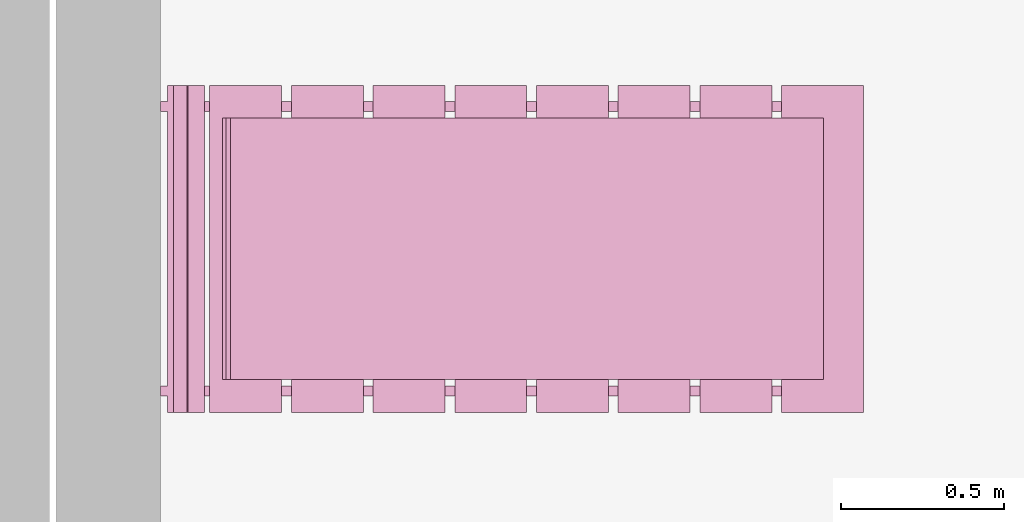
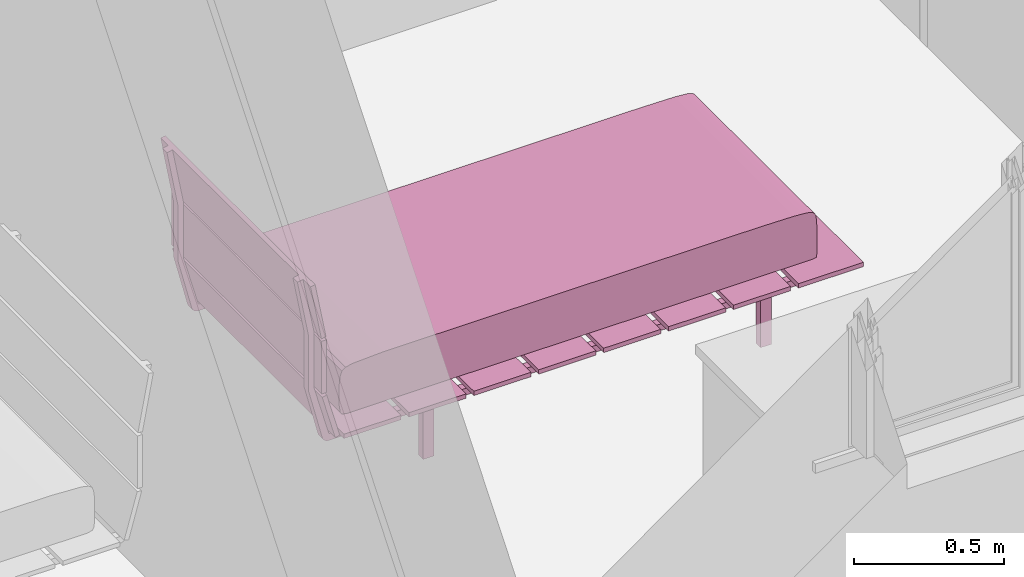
# One storey, part 57 of 61: 1 furnishing.
"""IFC2X3 building model written with IfcOpenShell, lengths in metres."""

from ifc_helpers import new_model, entity, si_unit, converted_unit, derived_unit, direction, frame, frame_2d, origin, origin_2d_with_axis, place, context, subcontext, project, spatial, polyline, circle_curve, parameter, trimmed, segment, composite_curve, rectangle, outline, extrude, source, transform, mapped, material, material_list, type_object, type_shapes, element, save


model = new_model("IFC2X3")

# Units and contexts
model_context = context("Model", 3, precision=1e-05, world=origin(), true_north=direction((6.12303176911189e-17, 1.0)))
body_context = subcontext(model_context, "Body", "Model", "MODEL_VIEW")
ifc_project = project(units=[si_unit("LENGTHUNIT", "METRE"), si_unit("AREAUNIT", "SQUARE_METRE"), si_unit("VOLUMEUNIT", "CUBIC_METRE"), converted_unit("PLANEANGLEUNIT", "DEGREE", entity("IfcRatioMeasure", 0.0174532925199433), si_unit("PLANEANGLEUNIT", "RADIAN"), dimensions=[0, 0, 0, 0, 0, 0, 0]), si_unit("MASSUNIT", "GRAM", prefix="KILO"), derived_unit("MASSDENSITYUNIT", [(si_unit("MASSUNIT", "GRAM", prefix="KILO"), 1), (si_unit("LENGTHUNIT", "METRE"), -3)]), si_unit("TIMEUNIT", "SECOND"), si_unit("FREQUENCYUNIT", "HERTZ"), si_unit("THERMODYNAMICTEMPERATUREUNIT", "DEGREE_CELSIUS"), derived_unit("THERMALTRANSMITTANCEUNIT", [(si_unit("MASSUNIT", "GRAM", prefix="KILO"), 1), (si_unit("THERMODYNAMICTEMPERATUREUNIT", "KELVIN"), -1), (si_unit("TIMEUNIT", "SECOND"), -3)]), derived_unit("VOLUMETRICFLOWRATEUNIT", [(si_unit("LENGTHUNIT", "METRE"), 3), (si_unit("TIMEUNIT", "SECOND"), -1)]), si_unit("ELECTRICCURRENTUNIT", "AMPERE"), si_unit("ELECTRICVOLTAGEUNIT", "VOLT"), si_unit("POWERUNIT", "WATT"), si_unit("FORCEUNIT", "NEWTON", prefix="KILO"), si_unit("ILLUMINANCEUNIT", "LUX"), si_unit("LUMINOUSFLUXUNIT", "LUMEN"), si_unit("LUMINOUSINTENSITYUNIT", "CANDELA"), derived_unit("USERDEFINED", [(si_unit("MASSUNIT", "GRAM", prefix="KILO"), -1), (si_unit("LENGTHUNIT", "METRE"), -2), (si_unit("TIMEUNIT", "SECOND"), 3), (si_unit("LUMINOUSFLUXUNIT", "LUMEN"), 1)]), derived_unit("LINEARVELOCITYUNIT", [(si_unit("LENGTHUNIT", "METRE"), 1), (si_unit("TIMEUNIT", "SECOND"), -1)]), si_unit("PRESSUREUNIT", "PASCAL"), derived_unit("USERDEFINED", [(si_unit("LENGTHUNIT", "METRE"), -2), (si_unit("MASSUNIT", "GRAM", prefix="KILO"), 1), (si_unit("TIMEUNIT", "SECOND"), -2)])], contexts=[model_context])

# Site, building, storey
site_placement = place(None, origin())
site = spatial("IfcSite", under=ifc_project, at=site_placement, Name="Surface", CompositionType="ELEMENT")
building_placement = place(site_placement, origin())
building = spatial("IfcBuilding", under=site, at=building_placement, CompositionType="ELEMENT")
storey_placement = place(building_placement, frame((0.0, 0.0, 2.82)))
storey = spatial("IfcBuildingStorey", under=building, at=storey_placement, Name="ETAGE", CompositionType="ELEMENT", Elevation=2.82)

# Furnishing
ifc_material_1 = material(Name="Textile - Bleu pâle")
ifc_material_2 = material(Name="Bois - Teck")
ifc_material_3 = material(Name="Plastique - Noir")
ifc_material_list_1 = material_list([ifc_material_1, ifc_material_2, ifc_material_3])
ifc_material_list_2 = material_list([ifc_material_1, ifc_material_2, ifc_material_3])
furniture_type = type_object("IfcFurnitureType", Name="1000 mm x 2000 mm 3", material=ifc_material_list_2)
shared_shape = source(origin(), body_context, "Body", "SweptSolid", [
    extrude(outline(composite_curve([segment(polyline([(0.753947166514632, -0.0964613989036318), (0.883258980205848, -0.0964613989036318)]), True, "CONTINUOUS"), segment(trimmed(circle_curve(frame_2d((0.82804087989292, 1.1581587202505), x_axis=(0.999878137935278, -0.0156111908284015)), 1.25583465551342), [parameter(273.414556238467)], [parameter(275.726345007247)], True, "PARAMETER"), True, "CONTINUOUS"), segment(trimmed(circle_curve(frame_2d((0.929150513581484, -0.0379486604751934), x_axis=(0.999878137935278, -0.0156111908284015)), 0.0554613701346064), [parameter(275.726345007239)], [parameter(297.64810869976)], True, "PARAMETER"), True, "CONTINUOUS"), segment(trimmed(circle_curve(frame_2d((0.943544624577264, -0.0665015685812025), x_axis=(0.999878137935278, -0.0156111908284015)), 0.0234854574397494), [parameter(297.648108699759)], [parameter(348.570161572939)], True, "PARAMETER"), True, "CONTINUOUS"), segment(trimmed(circle_curve(frame_2d((0.767446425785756, -0.0280276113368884), x_axis=(0.999878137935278, -0.0156111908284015)), 0.203737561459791), [parameter(348.570161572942)], [parameter(3.56222124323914e-13)], True, "PARAMETER"), True, "CONTINUOUS"), segment(polyline([(0.971159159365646, -0.0312081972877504), (0.97301851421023, 0.0878812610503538)]), True, "CONTINUOUS"), segment(polyline([(0.97301851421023, 0.0878812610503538), (0.971187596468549, 0.10002359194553)]), True, "CONTINUOUS"), segment(polyline([(0.971187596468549, 0.10002359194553), (0.955059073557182, 0.102294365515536)]), True, "CONTINUOUS"), segment(polyline([(0.955059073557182, 0.102294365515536), (-0.834665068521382, 0.130237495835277)]), True, "CONTINUOUS"), segment(polyline([(-0.834665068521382, 0.130237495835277), (-0.854928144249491, 0.12651595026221)]), True, "CONTINUOUS"), segment(polyline([(-0.854928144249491, 0.12651595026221), (-0.861114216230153, 0.118536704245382)]), True, "CONTINUOUS"), segment(polyline([(-0.861114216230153, 0.118536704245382), (-0.865626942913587, 0.0883228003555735)]), True, "CONTINUOUS"), segment(polyline([(-0.865626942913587, 0.0883228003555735), (-0.866982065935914, 0.00152878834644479)]), True, "CONTINUOUS"), segment(polyline([(-0.866982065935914, 0.00152878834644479), (-0.863446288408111, -0.0308297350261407)]), True, "CONTINUOUS"), segment(polyline([(-0.863446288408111, -0.0308297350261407), (-0.857669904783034, -0.0490905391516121)]), True, "CONTINUOUS"), segment(polyline([(-0.857669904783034, -0.0490905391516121), (-0.843687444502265, -0.0594036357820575)]), True, "CONTINUOUS"), segment(polyline([(-0.843687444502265, -0.0594036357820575), (-0.817521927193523, -0.0658690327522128)]), True, "CONTINUOUS"), segment(polyline([(-0.817521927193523, -0.0658690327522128), (-0.696416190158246, -0.0738167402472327)]), True, "CONTINUOUS"), segment(polyline([(-0.696416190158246, -0.0738167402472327), (0.753947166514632, -0.0964613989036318)]), True, "CONTINUOUS")], self_intersect=False)), frame((-0.4, -1.05656455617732, 0.367191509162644), z_axis=(1.0, 0.0, 0.0), x_axis=(0.0, -0.999878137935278, -0.0156111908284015)), (0.0, 0.0, 1.0), 0.799999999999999),
    extrude(rectangle(XDim=0.249999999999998, YDim=1.0, at=origin_2d_with_axis()), frame((0.0, -2.02499620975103, 0.232311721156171), z_axis=(0.0, 0.0, 1.0), x_axis=(0.0, 1.0, 0.0)), (0.0, 0.0, 1.0), 0.0176882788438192),
    extrude(outline(polyline([(-0.00463256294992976, -0.115042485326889), (0.0130278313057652, -0.115042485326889), (0.00471132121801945, 0.115371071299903), (-0.0131065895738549, 0.114713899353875), (-0.00463256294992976, -0.115042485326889)])), frame((-0.5, -0.051324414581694, 0.783374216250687), z_axis=(1.0, 0.0, 0.0), x_axis=(0.0, 0.975885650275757, -0.218282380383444)), (0.0, 0.0, 1.0), 0.999999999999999),
    extrude(rectangle(XDim=0.219999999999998, YDim=1.0, at=frame_2d((-1.38777878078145e-16, 0.0), x_axis=(1.0, 0.0))), frame((0.0, -1.75999620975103, 0.232311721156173), z_axis=(0.0, 0.0, 1.0), x_axis=(0.0, 1.0, 0.0)), (0.0, 0.0, 1.0), 0.0176882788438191),
    extrude(rectangle(XDim=0.219999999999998, YDim=1.0, at=frame_2d((-1.31838984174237e-16, 0.0), x_axis=(1.0, 0.0))), frame((0.0, -1.50999620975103, 0.232311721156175), z_axis=(0.0, 0.0, 1.0), x_axis=(0.0, 1.0, 0.0)), (0.0, 0.0, 1.0), 0.017688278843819),
    extrude(rectangle(XDim=0.219999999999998, YDim=1.0, at=frame_2d((-1.38777878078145e-16, 0.0), x_axis=(1.0, 0.0))), frame((0.0, -1.25999620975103, 0.232311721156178), z_axis=(0.0, 0.0, 1.0), x_axis=(0.0, 1.0, 0.0)), (0.0, 0.0, 1.0), 0.0176882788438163),
    extrude(rectangle(XDim=0.219999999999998, YDim=1.0, at=frame_2d((6.93889390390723e-17, 0.0), x_axis=(1.0, 0.0))), frame((0.0, -1.00999620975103, 0.232311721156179), z_axis=(0.0, 0.0, 1.0), x_axis=(0.0, 1.0, 0.0)), (0.0, 0.0, 1.0), 0.0176882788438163),
    extrude(rectangle(XDim=0.22, YDim=1.0, at=origin_2d_with_axis()), frame((0.0, -0.759996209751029, 0.232311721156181), z_axis=(0.0, 0.0, 1.0), x_axis=(0.0, 1.0, 0.0)), (0.0, 0.0, 1.0), 0.0176882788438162),
    extrude(rectangle(XDim=0.22, YDim=1.0, at=origin_2d_with_axis()), frame((0.0, -0.509996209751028, 0.232311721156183), z_axis=(0.0, 0.0, 1.0), x_axis=(0.0, 1.0, 0.0)), (0.0, 0.0, 1.0), 0.0176882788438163),
    extrude(rectangle(XDim=0.22, YDim=1.0, at=origin_2d_with_axis()), frame((0.0, -0.259996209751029, 0.232311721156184), z_axis=(0.0, 0.0, 1.0), x_axis=(0.0, 1.0, 0.0)), (0.0, 0.0, 1.0), 0.0176882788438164),
    extrude(rectangle(XDim=0.0183684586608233, YDim=1.0, at=origin_2d_with_axis()), frame((0.0, -0.0735868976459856, 0.443802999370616), z_axis=(0.0, 0.0, 1.0), x_axis=(0.0, 1.0, 0.0)), (0.0, 0.0, 1.0), 0.214481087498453),
    extrude(outline(polyline([(-0.0111603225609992, -0.093944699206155), (0.00684599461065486, -0.093944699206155), (0.0109625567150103, 0.0940897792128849), (-0.00664822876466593, 0.093799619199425), (-0.0111603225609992, -0.093944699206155)])), frame((-0.5, -0.100341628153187, 0.340588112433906), z_axis=(1.0, 0.0, 0.0), x_axis=(0.0, 0.969329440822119, -0.245764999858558)), (0.0, 0.0, 1.0), 1.0),
    extrude(rectangle(XDim=0.0421792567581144, YDim=0.03, at=frame_2d((0.0, -3.38271077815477e-17), x_axis=(1.0, 0.0))), frame((-0.434999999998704, -1.80439834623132, 0.0), z_axis=(0.0, 0.0, 1.0), x_axis=(0.0, -1.0, 0.0)), (0.0, 0.0, 1.0), 0.204645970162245),
    extrude(rectangle(XDim=0.0421792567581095, YDim=0.03, at=frame_2d((3.29597460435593e-17, -3.38271077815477e-17), x_axis=(1.0, 0.0))), frame((-0.434999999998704, -0.505017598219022, 0.0), z_axis=(0.0, 0.0, 1.0), x_axis=(0.0, -1.0, 0.0)), (0.0, 0.0, 1.0), 0.204645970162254),
    extrude(rectangle(XDim=0.0421792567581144, YDim=0.03, at=frame_2d((2.70616862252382e-16, -3.38271077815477e-17), x_axis=(1.0, 0.0))), frame((0.435000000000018, -1.80439834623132, 0.0), z_axis=(0.0, 0.0, 1.0), x_axis=(0.0, 1.0, 0.0)), (0.0, 0.0, 1.0), 0.204645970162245),
    extrude(rectangle(XDim=0.0421792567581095, YDim=0.03, at=frame_2d((-3.29597460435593e-17, -3.38271077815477e-17), x_axis=(1.0, 0.0))), frame((0.435000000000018, -0.505017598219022, 0.0), z_axis=(0.0, 0.0, 1.0), x_axis=(0.0, 1.0, 0.0)), (0.0, 0.0, 1.0), 0.204645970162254),
    extrude(outline(composite_curve([segment(polyline([(-0.333462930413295, -0.507724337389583), (-0.311650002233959, -0.507724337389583)]), True, "CONTINUOUS"), segment(polyline([(-0.311650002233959, -0.507724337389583), (-0.317185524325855, -0.272424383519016)]), True, "CONTINUOUS"), segment(polyline([(-0.317185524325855, -0.272424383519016), (-0.363847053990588, -0.050782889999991)]), True, "CONTINUOUS"), segment(polyline([(-0.363847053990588, -0.050782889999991), (-0.350538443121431, 0.161194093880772)]), True, "CONTINUOUS"), segment(polyline([(-0.350538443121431, 0.161194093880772), (1.5836166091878, 0.569312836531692)]), True, "CONTINUOUS"), segment(polyline([(1.5836166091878, 0.569312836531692), (1.55147511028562, 0.589891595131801)]), True, "CONTINUOUS"), segment(polyline([(1.55147511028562, 0.589891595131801), (-0.355855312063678, 0.188346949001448)]), True, "CONTINUOUS"), segment(trimmed(circle_curve(frame_2d((-0.350332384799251, 0.162113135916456), x_axis=(0.978549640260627, 0.206011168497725)), 0.0268088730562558), [parameter(90.0)], [parameter(167.367566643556)], True, "PARAMETER"), True, "CONTINUOUS"), segment(polyline([(-0.377138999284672, 0.162461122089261), (-0.386037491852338, -0.0554545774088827)]), True, "CONTINUOUS"), segment(polyline([(-0.386037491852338, -0.0554545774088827), (-0.339375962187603, -0.277096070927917)]), True, "CONTINUOUS"), segment(polyline([(-0.339375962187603, -0.277096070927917), (-0.333462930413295, -0.507724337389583)]), True, "CONTINUOUS")], self_intersect=False)), frame((-0.449999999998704, -0.430906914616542, 0.462262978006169), z_axis=(1.0, 0.0, 0.0), x_axis=(0.0, -0.978549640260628, 0.206011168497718)), (0.0, 0.0, 1.0), 0.0299999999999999),
    extrude(outline(composite_curve([segment(polyline([(-0.333462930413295, -0.507724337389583), (-0.311650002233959, -0.507724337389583)]), True, "CONTINUOUS"), segment(polyline([(-0.311650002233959, -0.507724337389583), (-0.317185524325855, -0.272424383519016)]), True, "CONTINUOUS"), segment(polyline([(-0.317185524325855, -0.272424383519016), (-0.363847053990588, -0.0507828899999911)]), True, "CONTINUOUS"), segment(polyline([(-0.363847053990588, -0.0507828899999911), (-0.350538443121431, 0.161194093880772)]), True, "CONTINUOUS"), segment(polyline([(-0.350538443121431, 0.161194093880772), (1.5836166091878, 0.569312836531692)]), True, "CONTINUOUS"), segment(polyline([(1.5836166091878, 0.569312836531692), (1.55147511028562, 0.5898915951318)]), True, "CONTINUOUS"), segment(polyline([(1.55147511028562, 0.5898915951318), (-0.355855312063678, 0.188346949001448)]), True, "CONTINUOUS"), segment(trimmed(circle_curve(frame_2d((-0.350332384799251, 0.162113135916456), x_axis=(0.978549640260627, 0.206011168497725)), 0.0268088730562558), [parameter(90.0)], [parameter(167.367566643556)], True, "PARAMETER"), True, "CONTINUOUS"), segment(polyline([(-0.377138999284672, 0.162461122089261), (-0.386037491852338, -0.0554545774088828)]), True, "CONTINUOUS"), segment(polyline([(-0.386037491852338, -0.0554545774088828), (-0.339375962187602, -0.277096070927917)]), True, "CONTINUOUS"), segment(polyline([(-0.339375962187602, -0.277096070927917), (-0.333462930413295, -0.507724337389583)]), True, "CONTINUOUS")], self_intersect=False)), frame((0.420000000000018, -0.430906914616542, 0.462262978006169), z_axis=(1.0, 0.0, 0.0), x_axis=(0.0, -0.978549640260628, 0.206011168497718)), (0.0, 0.0, 1.0), 0.0299999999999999),
])
type_shapes(furniture_type, [shared_shape])
furnishing_placement = place(storey_placement, frame((76.622756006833, 86.2975239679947, 0.0199999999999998), z_axis=(0.0, 0.0, 1.0), x_axis=(0.0, 1.0, 0.0)))
element("IfcFurnishingElement", 1, at=furnishing_placement, inside=storey, type_object=furniture_type, material=ifc_material_list_1, Name="Lit à lattes:1000 mm x 2000 mm 3", ObjectType="Lit à lattes:1000 mm x 2000 mm 3", context=body_context, shape_type="MappedRepresentation", body=[
    mapped(shared_shape, transform((0.0, 0.0, 0.0), scale=1.0)),
])

save(model, "model.ifc")
